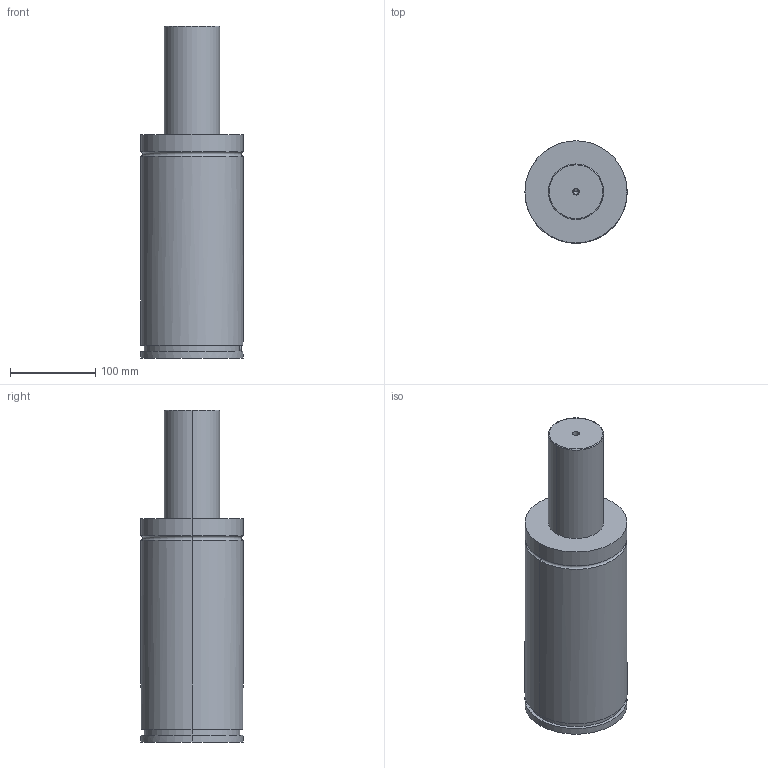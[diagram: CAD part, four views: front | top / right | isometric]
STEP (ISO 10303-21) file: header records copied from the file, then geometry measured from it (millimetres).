
FILE_DESCRIPTION(/* description */ (''),/* implementation_level */ '2;1');
FILE_NAME(/* name */ '3d_gse120-125_03890_r00.stp',/* time_stamp */ '2011-01-10T14:15:20+09:00',/* author */ ('MISUMI'),/* organization */ (''),/* preprocessor_version */ 'ST-DEVELOPER v11',/* originating_system */ 'UGS - NX 5.0',/* authorisation */ '');
FILE_SCHEMA (('CONFIG_CONTROL_DESIGN'));
Length unit declared in the file: millimetre
Products named in the file (1): 3d_gse120-125_03890_r00
Bounding box: 120 x 120 x 390 mm (x, y, z)
Volume: 3366422.4 mm3; surface area: 154466.1 mm2
Topology: 1 solids, 1 shells, 75 faces, 161 edges, 103 vertices
Faces by surface type: cylinder 34, plane 27, cone 10, torus 4
Entity records: 2145 total; most frequent: DIRECTION 393, CARTESIAN_POINT 360, ORIENTED_EDGE 318, AXIS2_PLACEMENT_3D 164, EDGE_CURVE 159, VERTEX_POINT 103, EDGE_LOOP 92, CIRCLE 88
